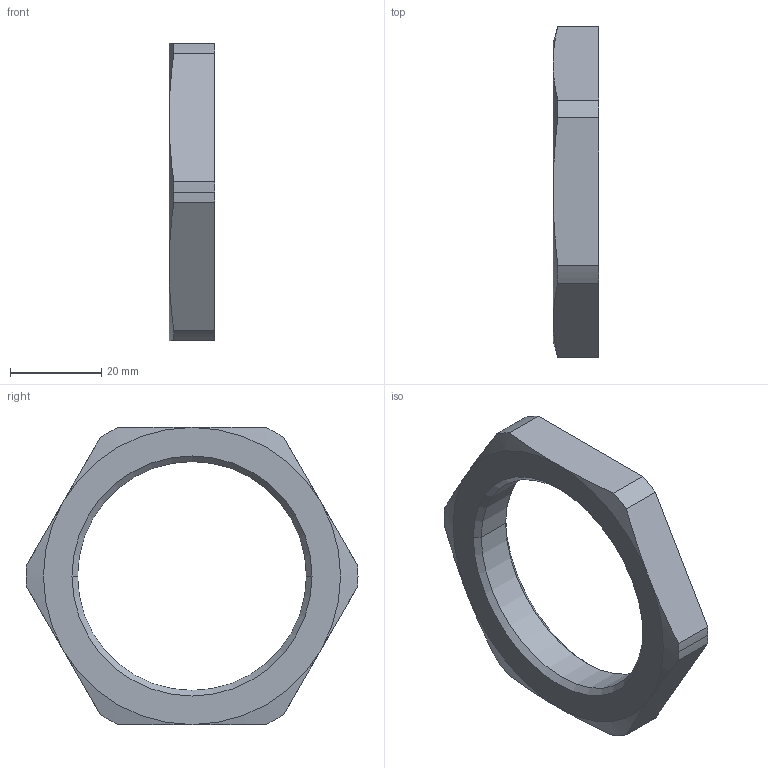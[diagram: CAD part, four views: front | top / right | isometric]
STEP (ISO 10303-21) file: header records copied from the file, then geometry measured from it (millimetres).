
FILE_DESCRIPTION((''),'2;1');
FILE_NAME('108716.0.stp','2007-11-06T08:51:45',(''),(''),'AutoCAD STEP 2000i','AutoCAD 2000i',', , ');
FILE_SCHEMA(('CONFIG_CONTROL_DESIGN'));
Length unit declared in the file: millimetre
Products named in the file (2): 108716.0; CHIAVE SMUSSX1036#0
Assembly tree (1 placements, depth 2):
  108716.0
    CHIAVE SMUSSX1036#0
Bounding box: 10 x 72.6 x 65 mm (x, y, z)
Volume: 16399 mm3; surface area: 6828.4 mm2
Topology: 1 solids, 1 shells, 28 faces, 68 edges, 42 vertices
Faces by surface type: cylinder 10, cone 10, plane 8
Entity records: 923 total; most frequent: CARTESIAN_POINT 164, DIRECTION 146, ORIENTED_EDGE 136, EDGE_CURVE 68, AXIS2_PLACEMENT_3D 60, VERTEX_POINT 42, CIRCLE 30, EDGE_LOOP 30
